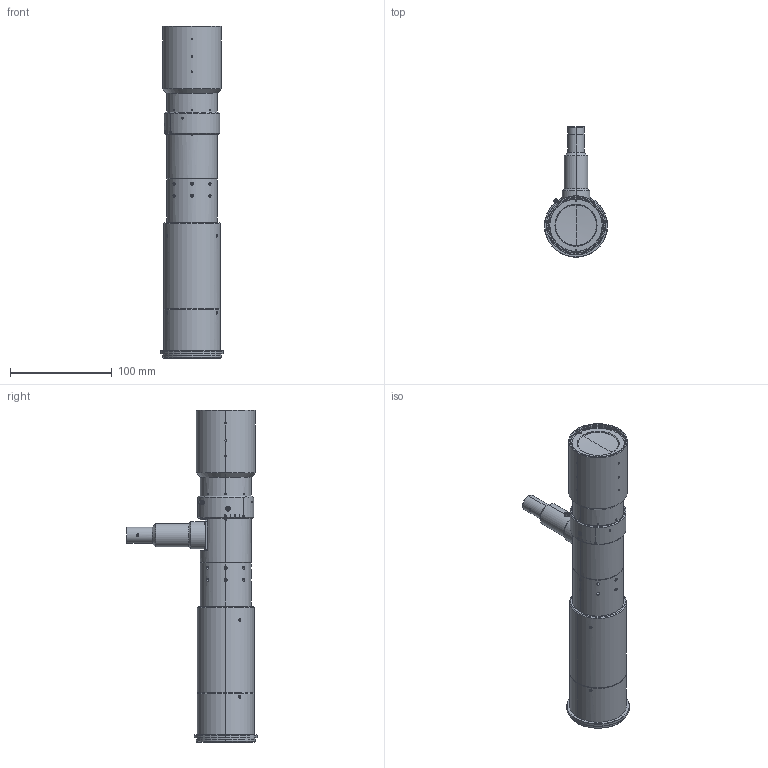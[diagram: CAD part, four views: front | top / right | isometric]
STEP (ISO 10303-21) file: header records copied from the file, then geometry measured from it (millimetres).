
FILE_DESCRIPTION (( 'STEP AP214' ), '1' );
FILE_NAME ('MML5-HR60DVI-43M58.STEP', '2026-06-18T07:42:46', ( '' ), ( '' ), 'SwSTEP 2.0', 'SolidWorks 2025', '' );
FILE_SCHEMA (( 'AUTOMOTIVE_DESIGN' ));
Length unit declared in the file: millimetre
Products named in the file (1): MML5-HR60DVI-43M58
Bounding box: 62 x 128.15 x 326.79 mm (x, y, z)
Volume: 595874 mm3; surface area: 88509.4 mm2
Topology: 1 solids, 2 shells, 1108 faces, 2663 edges, 1660 vertices
Faces by surface type: plane 384, cylinder 345, cone 301, bspline 56, sphere 12, torus 10
Entity records: 42408 total; most frequent: CARTESIAN_POINT 17795, ORIENTED_EDGE 5302, DIRECTION 4775, EDGE_CURVE 2651, AXIS2_PLACEMENT_3D 1868, VERTEX_POINT 1660, EDGE_LOOP 1225, ADVANCED_FACE 1108
